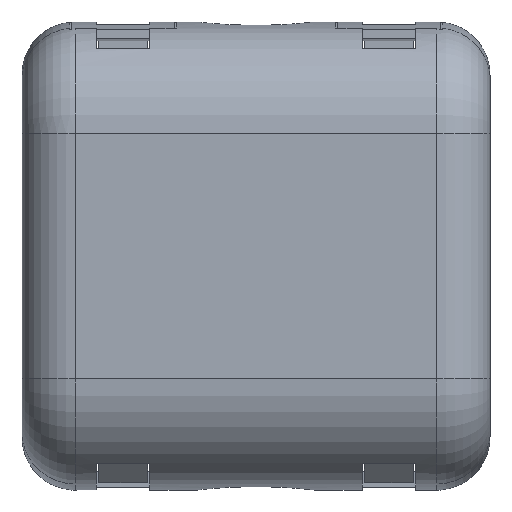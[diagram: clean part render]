
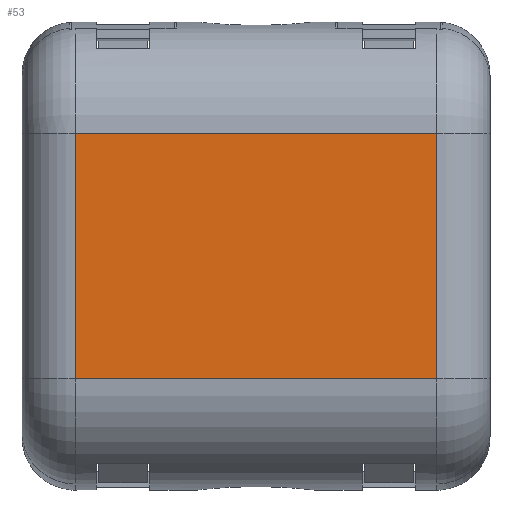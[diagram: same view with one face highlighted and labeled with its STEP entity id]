
A CAD part, front view. The second image highlights one B-rep face of the part: STEP entity #53.
In plain terms, the highlighted planar face has unit normal (0, -1, 0) as drawn and (0, 1, 0) by its records, which use the part's own axes.
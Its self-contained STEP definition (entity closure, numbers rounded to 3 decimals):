
#18 = DIRECTION ( 'NONE',  ( 0., -1., 0. ) ) ;
#53 = ADVANCED_FACE ( 'NONE', ( #2281 ), #4609, .F. ) ;
#444 = CARTESIAN_POINT ( 'NONE',  ( 44., 16., 11.547 ) ) ;
#616 = DIRECTION ( 'NONE',  ( 0., 0., -1. ) ) ;
#732 = VERTEX_POINT ( 'NONE', #1730 ) ;
#735 = CARTESIAN_POINT ( 'NONE',  ( 44., 16., -11.547 ) ) ;
#1073 = EDGE_LOOP ( 'NONE', ( #4502, #1225, #3610, #3883 ) ) ;
#1225 = ORIENTED_EDGE ( 'NONE', *, *, #1588, .T. ) ;
#1588 = EDGE_CURVE ( 'NONE', #4627, #1779, #1875, .T. ) ;
#1730 = CARTESIAN_POINT ( 'NONE',  ( 39., 16., 11.547 ) ) ;
#1779 = VERTEX_POINT ( 'NONE', #3191 ) ;
#1875 = LINE ( 'NONE', #3493, #3096 ) ;
#1885 = EDGE_CURVE ( 'NONE', #732, #3602, #3507, .T. ) ;
#2010 = DIRECTION ( 'NONE',  ( -1., 0., 0. ) ) ;
#2038 = VECTOR ( 'NONE', #2010, 1000. ) ;
#2039 = CARTESIAN_POINT ( 'NONE',  ( 44., 16., 11.547 ) ) ;
#2210 = VECTOR ( 'NONE', #616, 1000. ) ;
#2281 = FACE_OUTER_BOUND ( 'NONE', #1073, .T. ) ;
#2609 = DIRECTION ( 'NONE',  ( -1., 0., 0. ) ) ;
#2766 = CARTESIAN_POINT ( 'NONE',  ( 39., 16., -11.547 ) ) ;
#2833 = EDGE_CURVE ( 'NONE', #732, #1779, #3026, .T. ) ;
#3026 = LINE ( 'NONE', #2039, #2038 ) ;
#3096 = VECTOR ( 'NONE', #3878, 1000. ) ;
#3191 = CARTESIAN_POINT ( 'NONE',  ( 5., 16., 11.547 ) ) ;
#3411 = DIRECTION ( 'NONE',  ( 0., 0., -1. ) ) ;
#3493 = CARTESIAN_POINT ( 'NONE',  ( 5., 16., 11.547 ) ) ;
#3507 = LINE ( 'NONE', #4001, #2210 ) ;
#3602 = VERTEX_POINT ( 'NONE', #2766 ) ;
#3610 = ORIENTED_EDGE ( 'NONE', *, *, #2833, .F. ) ;
#3878 = DIRECTION ( 'NONE',  ( 0., 0., 1. ) ) ;
#3883 = ORIENTED_EDGE ( 'NONE', *, *, #1885, .T. ) ;
#3928 = EDGE_CURVE ( 'NONE', #3602, #4627, #4891, .T. ) ;
#4001 = CARTESIAN_POINT ( 'NONE',  ( 39., 16., -11.547 ) ) ;
#4084 = CARTESIAN_POINT ( 'NONE',  ( 5., 16., -11.547 ) ) ;
#4453 = VECTOR ( 'NONE', #2609, 1000. ) ;
#4502 = ORIENTED_EDGE ( 'NONE', *, *, #3928, .T. ) ;
#4609 = PLANE ( 'NONE',  #4856 ) ;
#4627 = VERTEX_POINT ( 'NONE', #4084 ) ;
#4856 = AXIS2_PLACEMENT_3D ( 'NONE', #444, #18, #3411 ) ;
#4891 = LINE ( 'NONE', #735, #4453 ) ;
